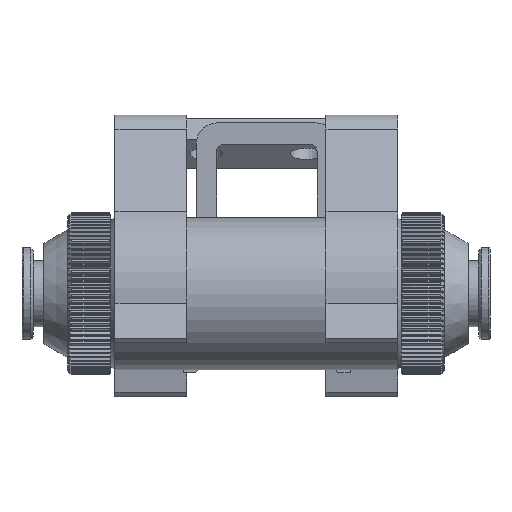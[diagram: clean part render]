
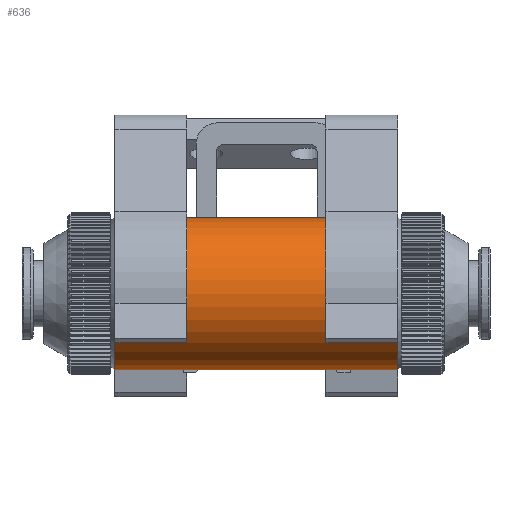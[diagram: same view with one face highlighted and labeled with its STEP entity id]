
A CAD part, front view. The second image highlights one B-rep face of the part: STEP entity #636.
In plain terms, the highlighted cylindrical face has radius 10.6 mm (diameter 21.2 mm), a full revolution.
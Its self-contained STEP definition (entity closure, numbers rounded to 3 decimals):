
#636 = ADVANCED_FACE( '', ( #2123, #2124 ), #2125, .T. );
#2123 = FACE_OUTER_BOUND( '', #4120, .T. );
#2124 = FACE_OUTER_BOUND( '', #4121, .T. );
#2125 = CYLINDRICAL_SURFACE( '', #4122, 10.6 );
#4120 = EDGE_LOOP( '', ( #7838 ) );
#4121 = EDGE_LOOP( '', ( #7839 ) );
#4122 = AXIS2_PLACEMENT_3D( '', #7840, #7841, #7842 );
#7838 = ORIENTED_EDGE( '', *, *, #15712, .F. );
#7839 = ORIENTED_EDGE( '', *, *, #14970, .T. );
#7840 = CARTESIAN_POINT( '', ( -34.1, 0., 0. ) );
#7841 = DIRECTION( '', ( -1., 0., 0. ) );
#7842 = DIRECTION( '', ( 0., 0., -1. ) );
#14970 = EDGE_CURVE( '', #18465, #18465, #18466, .T. );
#15712 = EDGE_CURVE( '', #19912, #19912, #19913, .T. );
#18465 = VERTEX_POINT( '', #27891 );
#18466 = CIRCLE( '', #27892, 10.6 );
#19912 = VERTEX_POINT( '', #29751 );
#19913 = CIRCLE( '', #29752, 10.6 );
#27891 = CARTESIAN_POINT( '', ( -21.25, 0., -10.6 ) );
#27892 = AXIS2_PLACEMENT_3D( '', #33374, #33375, #33376 );
#29751 = CARTESIAN_POINT( '', ( 18.25, 0., -10.6 ) );
#29752 = AXIS2_PLACEMENT_3D( '', #34822, #34823, #34824 );
#33374 = CARTESIAN_POINT( '', ( -21.25, 0., 0. ) );
#33375 = DIRECTION( '', ( 1., 0., 0. ) );
#33376 = DIRECTION( '', ( 0., 0., -1. ) );
#34822 = CARTESIAN_POINT( '', ( 18.25, 0., 0. ) );
#34823 = DIRECTION( '', ( 1., 0., 0. ) );
#34824 = DIRECTION( '', ( 0., 0., -1. ) );
